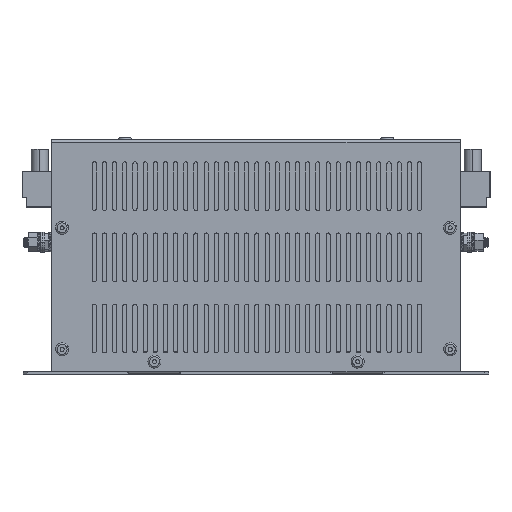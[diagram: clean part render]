
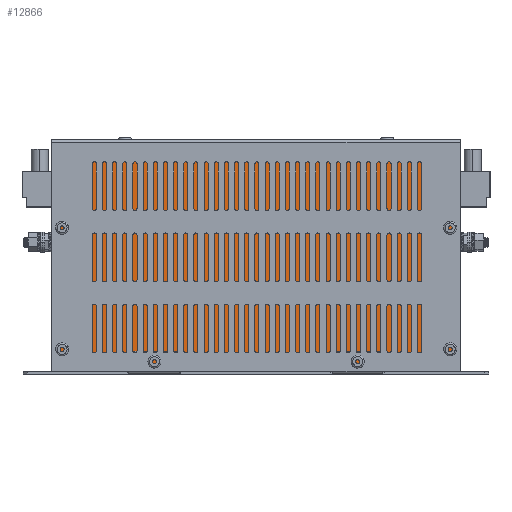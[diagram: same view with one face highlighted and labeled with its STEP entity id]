
A CAD part, top view. The second image highlights one B-rep face of the part: STEP entity #12866.
In plain terms, the highlighted planar face has unit normal (0, 0, 1).
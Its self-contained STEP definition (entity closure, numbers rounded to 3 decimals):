
#3540 = CARTESIAN_POINT ( 'NONE',  ( 143.781, 112.3, -27.667 ) ) ;
#9620 = VERTEX_POINT ( 'NONE', #48205 ) ;
#11354 = VERTEX_POINT ( 'NONE', #3540 ) ;
#11888 = VECTOR ( 'NONE', #22225, 1000. ) ;
#12050 = LINE ( 'NONE', #22032, #11888 ) ;
#12866 = ADVANCED_FACE ( 'NONE', ( #48173 ), #34756, .T. ) ;
#16143 = VERTEX_POINT ( 'NONE', #20319 ) ;
#16926 = VERTEX_POINT ( 'NONE', #51584 ) ;
#20319 = CARTESIAN_POINT ( 'NONE',  ( 143.781, 1.7, -27.667 ) ) ;
#22032 = CARTESIAN_POINT ( 'NONE',  ( -53.819, 112.3, -27.667 ) ) ;
#22225 = DIRECTION ( 'NONE',  ( 1., 0., 0. ) ) ;
#23680 = EDGE_CURVE ( 'NONE', #16143, #16926, #40943, .T. ) ;
#23690 = EDGE_CURVE ( 'NONE', #16926, #9620, #41154, .T. ) ;
#24059 = EDGE_LOOP ( 'NONE', ( #51304, #50193, #50046, #49108 ) ) ;
#32312 = EDGE_CURVE ( 'NONE', #9620, #11354, #12050, .T. ) ;
#34114 = VECTOR ( 'NONE', #49595, 1000. ) ;
#34210 = LINE ( 'NONE', #45653, #34114 ) ;
#34467 = DIRECTION ( 'NONE',  ( 0., -1., 0. ) ) ;
#34638 = CARTESIAN_POINT ( 'NONE',  ( -55.519, 1.2, -27.667 ) ) ;
#34756 = PLANE ( 'NONE',  #37155 ) ;
#35546 = DIRECTION ( 'NONE',  ( 0., 0., 1. ) ) ;
#37155 = AXIS2_PLACEMENT_3D ( 'NONE', #34638, #35546, #34467 ) ;
#40847 = VECTOR ( 'NONE', #43508, 1000. ) ;
#40897 = VECTOR ( 'NONE', #44220, 1000. ) ;
#40943 = LINE ( 'NONE', #43631, #40847 ) ;
#41154 = LINE ( 'NONE', #43576, #40897 ) ;
#43508 = DIRECTION ( 'NONE',  ( -1., 0., 0. ) ) ;
#43576 = CARTESIAN_POINT ( 'NONE',  ( -53.819, 1.7, -27.667 ) ) ;
#43631 = CARTESIAN_POINT ( 'NONE',  ( 145.481, 1.7, -27.667 ) ) ;
#44220 = DIRECTION ( 'NONE',  ( 0., 1., 0. ) ) ;
#45653 = CARTESIAN_POINT ( 'NONE',  ( 143.781, 114., -27.667 ) ) ;
#46906 = EDGE_CURVE ( 'NONE', #11354, #16143, #34210, .T. ) ;
#48173 = FACE_OUTER_BOUND ( 'NONE', #24059, .T. ) ;
#48205 = CARTESIAN_POINT ( 'NONE',  ( -53.819, 112.3, -27.667 ) ) ;
#49108 = ORIENTED_EDGE ( 'NONE', *, *, #23680, .F. ) ;
#49595 = DIRECTION ( 'NONE',  ( 0., -1., 0. ) ) ;
#50046 = ORIENTED_EDGE ( 'NONE', *, *, #23690, .F. ) ;
#50193 = ORIENTED_EDGE ( 'NONE', *, *, #32312, .F. ) ;
#51304 = ORIENTED_EDGE ( 'NONE', *, *, #46906, .F. ) ;
#51584 = CARTESIAN_POINT ( 'NONE',  ( -53.819, 1.7, -27.667 ) ) ;
